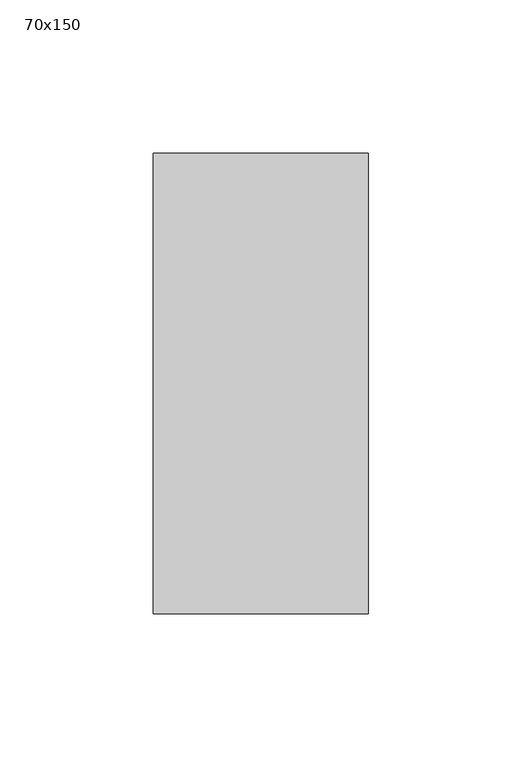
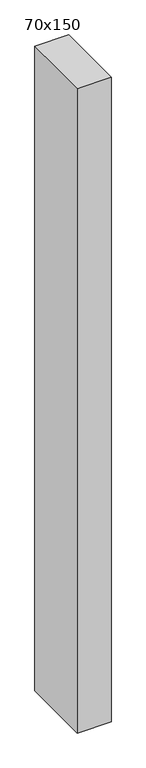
"""IFC4 building model written with IfcOpenShell, lengths in millimetres: member geometry, 長方形のマリオン : 70x150."""

from ifc_helpers import new_model, si_unit, frame, origin, place, context, project, spatial, polyline, outline, extrude, source, transform, mapped, element, save


def member_70x150_315d404a(model_context):
    return source(origin(), model_context, "Body", "SweptSolid", [
        extrude(outline(polyline([(-75.0, -0.7561664), (75.0, 0.7561664), (75.0, -1401.6672959), (-75.0, -1402.2838104), (-75.0, -0.7561664)])), frame((-35.0, 0.0, 0.0), z_axis=(1.0, 0.0, 0.0), x_axis=(0.0, 1.0, 0.0)), (0.0, 0.0, 1.0), 70.0),
    ])


if __name__ == "__main__":
    model = new_model("IFC4")
    model_context = context("Model", 3, world=origin())
    ifc_project = project(units=[si_unit("LENGTHUNIT", "METRE", prefix="MILLI")], contexts=[model_context])
    site = spatial("IfcSite", under=ifc_project)
    building = spatial("IfcBuilding", under=site)
    placement = place(None, origin())
    member_70x150_shape = member_70x150_315d404a(model_context)
    element("IfcMember", 1, ObjectType="長方形のマリオン : 70x150", at=placement, inside=building, context=model_context, shape_type="MappedRepresentation", body=[
        mapped(member_70x150_shape, transform((0.0, 0.0, 0.0), x_axis=(1.0, 0.0, 0.0), y_axis=(0.0, 1.0, 0.0), z_axis=(0.0, 0.0, 1.0))),
    ])
    save(model, "model.ifc")
